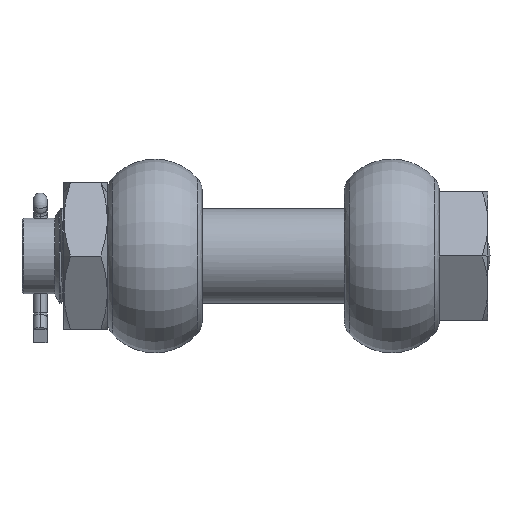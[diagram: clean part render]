
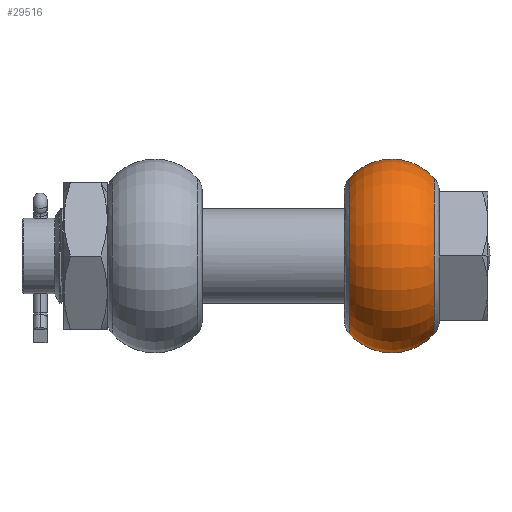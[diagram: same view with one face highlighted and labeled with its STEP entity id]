
A CAD part, front view. The second image highlights one B-rep face of the part: STEP entity #29516.
In plain terms, the highlighted toroidal (fillet/blend) face has major radius 29.5 mm and minor radius 42 mm.
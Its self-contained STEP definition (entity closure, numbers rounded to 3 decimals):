
#13051 = CARTESIAN_POINT ( 'NONE',  ( 119., 0., -57.28 ) ) ;
#13059 = DIRECTION ( 'NONE',  ( 0., -1., 0. ) ) ;
#13060 = DIRECTION ( 'NONE',  ( 1., 0., 0. ) ) ;
#13061 = CARTESIAN_POINT ( 'NONE',  ( 119., 0., 0. ) ) ;
#13062 = AXIS2_PLACEMENT_3D ( 'NONE', #13061, #13060, #13059 ) ;
#13063 = CIRCLE ( 'NONE', #13062, 57.28 ) ;
#13230 = AXIS2_PLACEMENT_3D ( 'NONE', #13284, #13283, #13282 ) ;
#13231 = DIRECTION ( 'NONE',  ( 0., 0., -1. ) ) ;
#13232 = CIRCLE ( 'NONE', #13230, 57.28 ) ;
#13233 = CARTESIAN_POINT ( 'NONE',  ( 87.5, 0., 0. ) ) ;
#13234 = AXIS2_PLACEMENT_3D ( 'NONE', #13233, #13242, #13231 ) ;
#13239 = TOROIDAL_SURFACE ( 'NONE', #13234, 29.5, 42. ) ;
#13240 = FACE_OUTER_BOUND ( 'NONE', #29511, .T. ) ;
#13242 = DIRECTION ( 'NONE',  ( 1., 0., 0. ) ) ;
#13276 = DIRECTION ( 'NONE',  ( 0., 0., -1. ) ) ;
#13277 = DIRECTION ( 'NONE',  ( 0., -1., 0. ) ) ;
#13278 = CARTESIAN_POINT ( 'NONE',  ( 87.5, 0., -29.5 ) ) ;
#13279 = AXIS2_PLACEMENT_3D ( 'NONE', #13278, #13277, #13276 ) ;
#13280 = CIRCLE ( 'NONE', #13279, 42. ) ;
#13281 = CARTESIAN_POINT ( 'NONE',  ( 56., 0., -57.28 ) ) ;
#13282 = DIRECTION ( 'NONE',  ( 0., 0., -1. ) ) ;
#13283 = DIRECTION ( 'NONE',  ( 1., 0., 0. ) ) ;
#13284 = CARTESIAN_POINT ( 'NONE',  ( 56., 0., 0. ) ) ;
#16723 = EDGE_CURVE ( 'NONE', #16875, #16724, #38465, .T. ) ;
#16724 = VERTEX_POINT ( 'NONE', #38460 ) ;
#16875 = VERTEX_POINT ( 'NONE', #38933 ) ;
#29449 = EDGE_CURVE ( 'NONE', #16724, #29452, #13063, .T. ) ;
#29452 = VERTEX_POINT ( 'NONE', #13051 ) ;
#29453 = ORIENTED_EDGE ( 'NONE', *, *, #29449, .F. ) ;
#29511 = EDGE_LOOP ( 'NONE', ( #29513, #29517, #29520, #29453 ) ) ;
#29513 = ORIENTED_EDGE ( 'NONE', *, *, #16723, .F. ) ;
#29516 = ADVANCED_FACE ( 'NONE', ( #13240 ), #13239, .T. ) ;
#29517 = ORIENTED_EDGE ( 'NONE', *, *, #29518, .T. ) ;
#29518 = EDGE_CURVE ( 'NONE', #16875, #29519, #13232, .T. ) ;
#29519 = VERTEX_POINT ( 'NONE', #13281 ) ;
#29520 = ORIENTED_EDGE ( 'NONE', *, *, #29521, .T. ) ;
#29521 = EDGE_CURVE ( 'NONE', #29519, #29452, #13280, .T. ) ;
#38460 = CARTESIAN_POINT ( 'NONE',  ( 119., 0., 57.28 ) ) ;
#38461 = DIRECTION ( 'NONE',  ( 0., 0., 1. ) ) ;
#38462 = DIRECTION ( 'NONE',  ( 0., 1., 0. ) ) ;
#38463 = CARTESIAN_POINT ( 'NONE',  ( 87.5, 0., 29.5 ) ) ;
#38464 = AXIS2_PLACEMENT_3D ( 'NONE', #38463, #38462, #38461 ) ;
#38465 = CIRCLE ( 'NONE', #38464, 42. ) ;
#38933 = CARTESIAN_POINT ( 'NONE',  ( 56., 0., 57.28 ) ) ;
